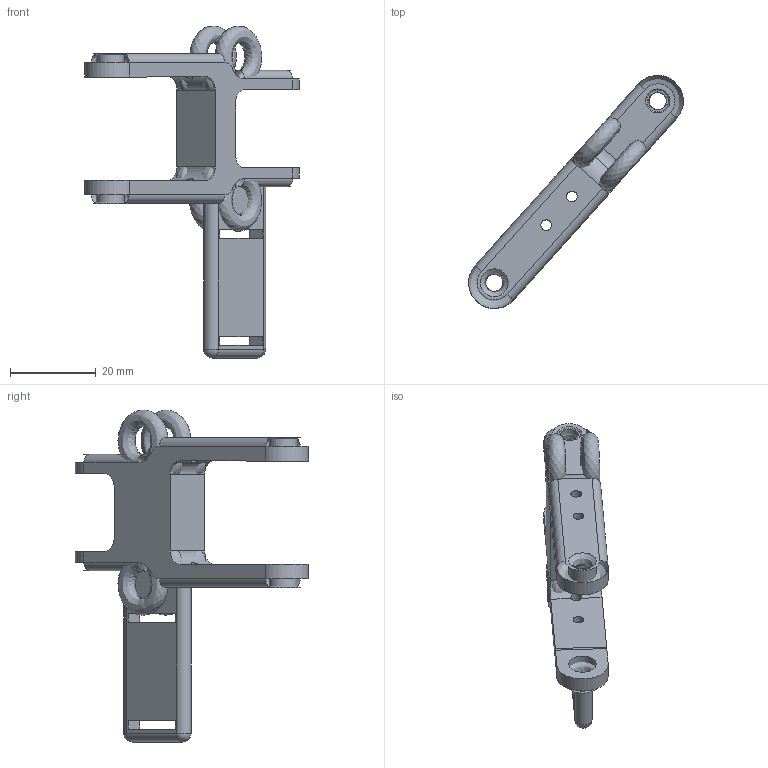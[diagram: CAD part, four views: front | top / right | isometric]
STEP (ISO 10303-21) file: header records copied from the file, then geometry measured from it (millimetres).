
FILE_DESCRIPTION(('Open CASCADE Model'),'2;1');
FILE_NAME('Open CASCADE Shape Model','2026-11-14T12:11:57',('Author'),( 'Open CASCADE'),'Open CASCADE STEP processor 8.0','Open CASCADE 8.0' ,'Unknown');
FILE_SCHEMA(('AUTOMOTIVE_DESIGN { 1 0 10303 214 1 1 1 1 }'));
Length unit declared in the file: millimetre
Products named in the file (1): Open CASCADE STEP translator 8.0 2
Bounding box: 50.2 x 54.49 x 77.58 mm (x, y, z)
Volume: 8578.8 mm3; surface area: 10795.2 mm2
Topology: 1 solids, 1 shells, 83 faces, 251 edges, 156 vertices
Faces by surface type: cylinder 37, plane 30, revolution 12, cone 2, sphere 2
Full cylindrical faces by diameter (mm): 2.5 x4, 4.2 x2, 6.5 x2
Entity records: 8334 total; most frequent: CARTESIAN_POINT 3375, DIRECTION 918, LINE 516, VECTOR 516, ORIENTED_EDGE 498, PCURVE 498, DEFINITIONAL_REPRESENTATION 498, EDGE_CURVE 249
